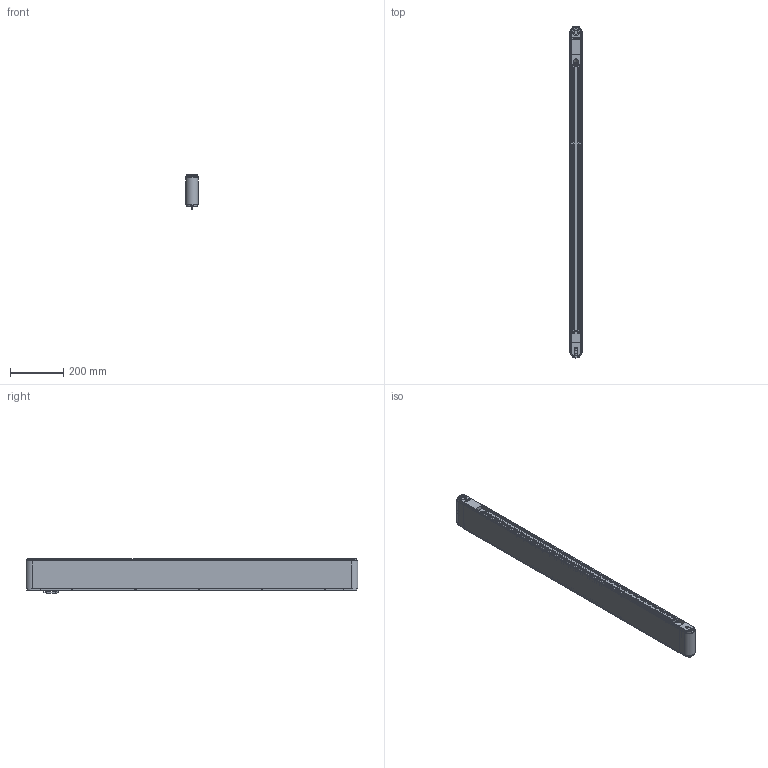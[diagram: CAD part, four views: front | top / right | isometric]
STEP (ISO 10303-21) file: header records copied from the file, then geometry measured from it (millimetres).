
FILE_DESCRIPTION(/* description */ (''),/* implementation_level */ '2;1');
FILE_NAME(/* name */ 'G:\DATEN\CAD\Förderband\Marketing\3D-Modelle (Standard)\FR-40-120\FR-40-120-1200-K.stp',/* time_stamp */ '2019-05-08T08:36:54+02:00',/* author */ ('melanie.ochs'),/* organization */ (''),/* preprocessor_version */ 'ST-DEVELOPER v17',/* originating_system */ 'Autodesk Inventor 2019',/* authorisation */ '');
FILE_SCHEMA (('CONFIG_CONTROL_DESIGN'));
Length unit declared in the file: centimetre
Products named in the file (1): FR-40-120-1200-K
Bounding box: 46.6 x 1246.6 x 128.53 mm (x, y, z)
Volume: 2250948.4 mm3; surface area: 1217247.1 mm2
Topology: 6 solids, 29 shells, 1051 faces, 2875 edges, 1920 vertices
Faces by surface type: plane 537, cylinder 291, bspline 122, cone 76, torus 25
Full cylindrical faces by diameter (mm): 2 x2, 4 x6, 4.3 x4, 4.64 x2, 4.917 x3, 5 x11, 5.5 x8, 6 x6, 6.5 x1, 6.647 x3, 8 x4, 8.3 x10, 8.5 x8, 8.773 x1, 10 x1, 11 x1, 12 x4, 15 x4, 20 x4, 25 x2, 28 x4
Entity records: 35982 total; most frequent: CARTESIAN_POINT 8480, ORIENTED_EDGE 5726, DIRECTION 5207, EDGE_CURVE 2863, VERTEX_POINT 1920, AXIS2_PLACEMENT_3D 1813, LINE 1581, VECTOR 1581
